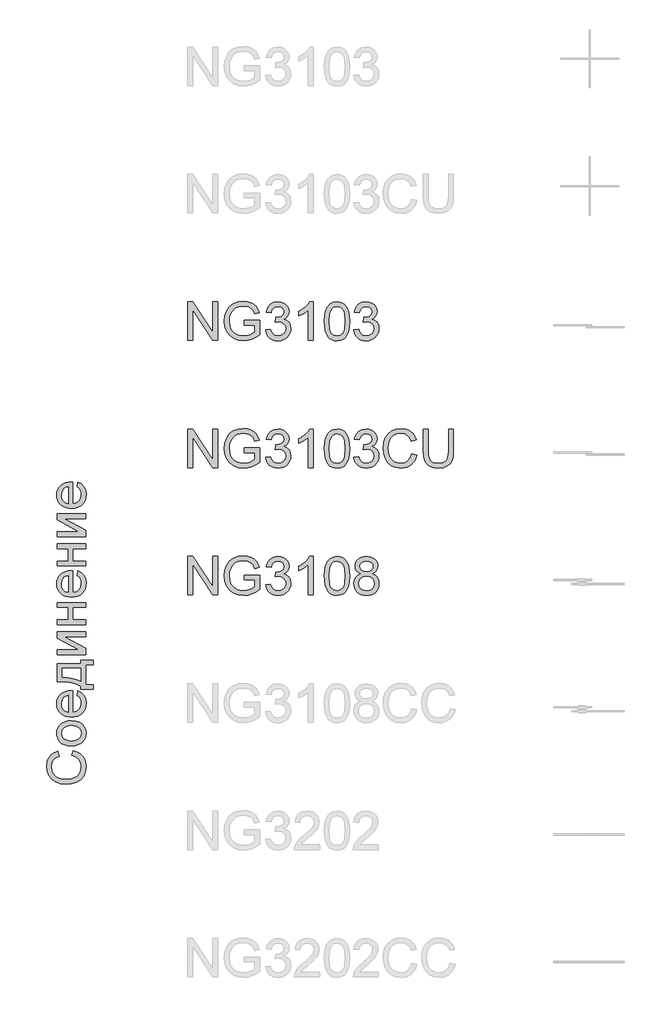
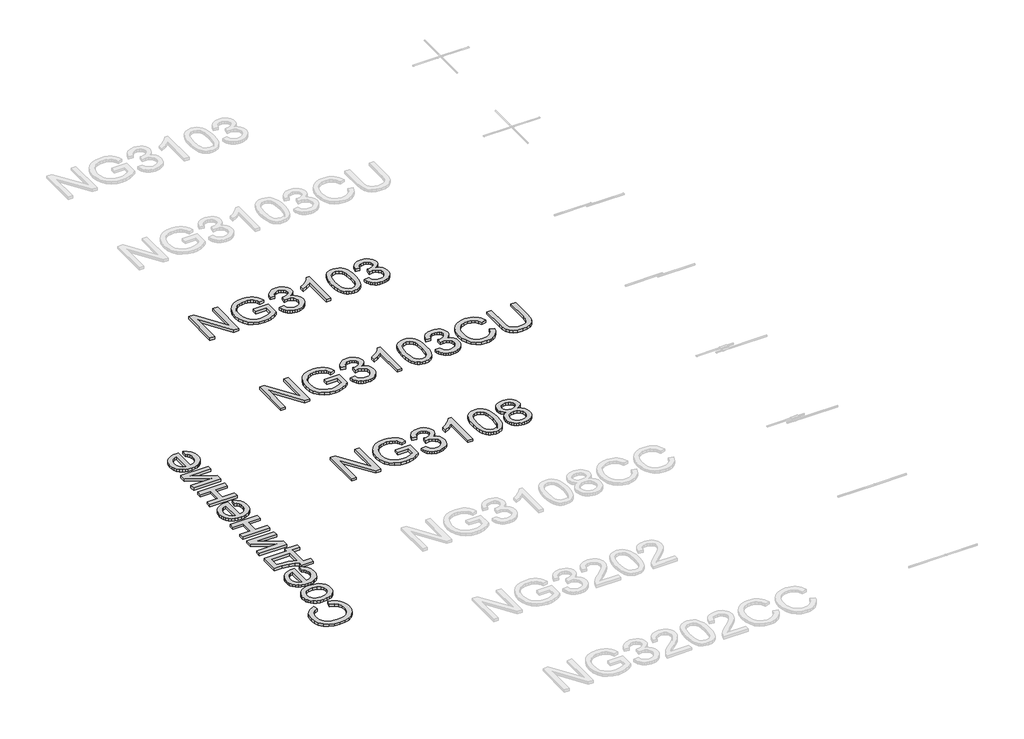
# One storey, part 111 of 124: 4 proxies.
"""IFC4 building model written with IfcOpenShell, lengths in millimetres."""

import ifcopenshell
import ifcopenshell.guid

model = None  # the IFC model being written
_history = None  # IfcOwnerHistory: only IFC2X3 demands one
_inside = {}  # id of a spatial element -> (the spatial element, [elements in it])
_under = {}  # id of a project, library or spatial element -> (it, [spatial elements below it])
_declared = {}  # id of a project -> (the project, [libraries it declares])
_typed = {}  # id of a type object -> (the type object, [elements of that type])
_made_of = {}  # id of a material, layer set ... -> (it, [elements and type objects made of it])


def new_model(schema):
    """Start an empty IFC model of exactly this schema.

    Asked for "IFC4X3", IfcOpenShell would pick the latest addendum, in which some entities
    have other attributes; the version numbers below select the first issue.
    IFC2X3 requires an IfcOwnerHistory on every rooted entity: one is made here for all.
    """
    global model, _history
    if schema == "IFC4X3":
        model = ifcopenshell.file(schema_version=(4, 3, 0, 0))
    else:
        model = ifcopenshell.file(schema=schema)
    _inside.clear()
    _under.clear()
    _declared.clear()
    _typed.clear()
    _made_of.clear()
    _history = None
    if model.schema == "IFC2X3":
        org = make("IfcOrganization", Name="unknown")
        user = make(
            "IfcPersonAndOrganization",
            ThePerson=make("IfcPerson", FamilyName="unknown"),
            TheOrganization=org,
        )
        app = make(
            "IfcApplication",
            ApplicationDeveloper=org,
            Version="unknown",
            ApplicationFullName="unknown",
            ApplicationIdentifier="unknown",
        )
        _history = make(
            "IfcOwnerHistory",
            OwningUser=user,
            OwningApplication=app,
            ChangeAction="ADDED",
            CreationDate=0,
        )
    return model


def make(cls, **values):
    """One entity of the class cls with the attributes given. An attribute that is None is left unset."""
    return model.create_entity(
        cls, **{name: value for name, value in values.items() if value is not None}
    )


def rooted(cls, **values):
    """An entity with a GlobalId (a new one), such as an element, a storey or a relation."""
    return make(cls, GlobalId=ifcopenshell.guid.new(), OwnerHistory=_history, **values)


def si_unit(unit_type, name, prefix=None):
    """IfcSIUnit, for example si_unit("LENGTHUNIT", "METRE", prefix="MILLI")."""
    return make("IfcSIUnit", UnitType=unit_type, Prefix=prefix, Name=name)


def assignment(units):
    """IfcUnitAssignment: the units of a project."""
    return None if units is None else make("IfcUnitAssignment", Units=units)


def point(xyz):
    """IfcCartesianPoint."""
    return None if xyz is None else make("IfcCartesianPoint", Coordinates=xyz)


def direction(xyz):
    """IfcDirection."""
    return None if xyz is None else make("IfcDirection", DirectionRatios=xyz)


def frame(location, z_axis=None, x_axis=None):
    """IfcAxis2Placement3D, a coordinate frame: its origin and axes. An axis left out is left unset."""
    return make(
        "IfcAxis2Placement3D",
        Location=point(location),
        Axis=direction(z_axis),
        RefDirection=direction(x_axis),
    )


def origin():
    """The frame at (0, 0, 0) with its axes left unset."""
    return frame((0.0, 0.0, 0.0))


def origin_with_axes():
    """The frame at (0, 0, 0) with the z axis (0, 0, 1) and the x axis (1, 0, 0) written out."""
    return frame((0.0, 0.0, 0.0), z_axis=(0.0, 0.0, 1.0), x_axis=(1.0, 0.0, 0.0))


def place(relative_to, where):
    """IfcLocalPlacement: puts the frame where relative to a parent placement (None: the world)."""
    return make(
        "IfcLocalPlacement", PlacementRelTo=relative_to, RelativePlacement=where
    )


def context(
    kind, dimensions, precision=None, world=None, true_north=None, identifier=None
):
    """IfcGeometricRepresentationContext, for example the 3D "Model" context."""
    return make(
        "IfcGeometricRepresentationContext",
        ContextIdentifier=identifier,
        ContextType=kind,
        CoordinateSpaceDimension=dimensions,
        Precision=precision,
        WorldCoordinateSystem=world,
        TrueNorth=true_north,
    )


def project(units=None, contexts=None):
    """IfcProject with its units and contexts."""
    return rooted(
        "IfcProject",
        Name="project",
        RepresentationContexts=contexts,
        UnitsInContext=assignment(units),
    )


def spatial(cls, under=None, at=None, **own):
    """A site, building, storey or space (cls), placed at a placement, below another one or the project."""
    s = rooted(cls, ObjectPlacement=at, **own)
    if under is not None:
        _under.setdefault(under.id(), (under, []))[1].append(s)
    return s


def polyline(points):
    """IfcPolyline through the points."""
    return make("IfcPolyline", Points=[point(p) for p in points])


def outline(outer, holes=None, kind="AREA"):
    """IfcArbitraryClosedProfileDef: a profile drawn as a closed curve; with holes, ...WithVoids."""
    if holes is None:
        return make("IfcArbitraryClosedProfileDef", ProfileType=kind, OuterCurve=outer)
    return make(
        "IfcArbitraryProfileDefWithVoids",
        ProfileType=kind,
        OuterCurve=outer,
        InnerCurves=holes,
    )


def extrude(swept, where, along, depth):
    """IfcExtrudedAreaSolid: the profile swept, set in the frame where, extruded along a direction by depth."""
    return make(
        "IfcExtrudedAreaSolid",
        SweptArea=swept,
        Position=where,
        ExtrudedDirection=direction(along),
        Depth=depth,
    )


def shape(context_of_items, identifier, shape_type, items):
    """IfcShapeRepresentation: the items that make up one representation, for example the "Body"."""
    return make(
        "IfcShapeRepresentation",
        ContextOfItems=context_of_items,
        RepresentationIdentifier=identifier,
        RepresentationType=shape_type,
        Items=items,
    )


def made_of(thing, what):
    """Note that an element or type object is made of a material, layer set ...; save() writes the relation."""
    if what is not None:
        _made_of.setdefault(what.id(), (what, []))[1].append(thing)
    return thing


def element(
    cls,
    number,
    at=None,
    inside=None,
    cuts=None,
    type_object=None,
    material=None,
    context=None,
    identifier="Body",
    shape_type=None,
    held_by="IfcProductDefinitionShape",
    body=None,
    shapes=None,
    **own,
):
    """One element of the class cls, such as IfcWall. Its Tag is "e" and its number.

    at: its placement. inside: the storey or other place that contains it. cuts: it is an
    opening in that element (IfcRelVoidsElement). A single representation is given by context,
    identifier, shape_type and body (its items); several are given by shapes. held_by: the class
    of the entity that holds the representations. save() writes the other relations.
    """
    e = rooted(cls, Tag="e%d" % number, ObjectPlacement=at, **own)
    if body is not None:
        shapes = [shape(context, identifier, shape_type, body)]
    if shapes is not None:
        e.Representation = make(held_by, Representations=shapes)
    if inside is not None:
        _inside.setdefault(inside.id(), (inside, []))[1].append(e)
    if cuts is not None:
        rooted(
            "IfcRelVoidsElement", RelatingBuildingElement=cuts, RelatedOpeningElement=e
        )
    if type_object is not None:
        _typed.setdefault(type_object.id(), (type_object, []))[1].append(e)
    return made_of(e, material)


def aggregate(whole, parts):
    """IfcRelAggregates: a whole, such as a stair, and the parts it consists of."""
    return rooted("IfcRelAggregates", RelatingObject=whole, RelatedObjects=parts)


def save(model, path):
    """Write the relations noted so far, then the file.

    IfcRelAggregates (storeys below a building ...), IfcRelContainedInSpatialStructure (elements
    in a storey), IfcRelDefinesByType, IfcRelAssociatesMaterial and IfcRelDeclares: one each for
    every whole, place, type object, material and project.
    """
    for whole, parts in _under.values():
        aggregate(whole, parts)
    for where, things in _inside.values():
        rooted(
            "IfcRelContainedInSpatialStructure",
            RelatedElements=things,
            RelatingStructure=where,
        )
    for kind, things in _typed.values():
        rooted("IfcRelDefinesByType", RelatedObjects=things, RelatingType=kind)
    for what, things in _made_of.values():
        rooted("IfcRelAssociatesMaterial", RelatedObjects=things, RelatingMaterial=what)
    for by, libraries in _declared.values():
        rooted("IfcRelDeclares", RelatingContext=by, RelatedDefinitions=libraries)
    model.write(path)


model = new_model("IFC4")

# Units and contexts
model_context = context("Model", 3, world=origin())
ifc_project = project(units=[si_unit("LENGTHUNIT", "METRE", prefix="MILLI")], contexts=[model_context])

# Site, building, storey
site = spatial("IfcSite", under=ifc_project)
building = spatial("IfcBuilding", under=site)
storey = spatial("IfcBuildingStorey", under=building, Name="Этаж 01", Elevation=0.0)

# Proxies
placement = place(None, origin())
element("IfcBuildingElementProxy", 1, Name="300", ObjectType="300", at=placement, inside=storey, context=model_context, shape_type="SweptSolid", body=[
    extrude(outline(polyline([(49699.8220677, -17519.5141033), (49699.8220677, -17218.1451728), (49740.1419344, -17218.1451728), (49897.5954283, -17456.9005877), (49897.5954283, -17218.1451728), (49935.2665446, -17218.1451728), (49935.2665446, -17519.5141033), (49894.9466779, -17519.5141033), (49737.493184, -17280.685112), (49737.493184, -17519.5141033), (49699.8220677, -17519.5141033)])), origin_with_axes(), (0.0, 0.0, 1.0), 20.0),
    extrude(outline(polyline([(50142.4576843, -17401.7918648), (50142.4576843, -17364.1207485), (50264.8888123, -17364.1207485), (50264.8888123, -17476.7662154), (50235.1363559, -17497.4595776), (50204.4458005, -17512.3036162), (50172.8907223, -17521.2431486), (50140.5446979, -17524.2229928), (50098.2842537, -17519.4865121), (50060.0889056, -17505.27707), (50028.3590835, -17482.0913073), (50005.4952175, -17450.4258646), (49991.6720515, -17412.4420486), (49987.0643295, -17370.301166), (49991.6536574, -17327.8567808), (50005.4216411, -17288.3738457), (50027.7980634, -17255.2552691), (50058.2127074, -17231.9039594), (50095.2584243, -17218.0532023), (50137.5280656, -17213.4362833), (50168.5589118, -17216.1126248), (50196.4627612, -17224.1416493), (50219.9612236, -17236.9439428), (50237.7759092, -17253.9400909), (50250.9552817, -17275.9486313), (50260.5478047, -17303.7881013), (50225.8197444, -17313.5737624), (50218.0666313, -17293.7173317), (50208.6396552, -17278.7353374), (50196.1684556, -17267.4413602), (50179.282672, -17258.6489805), (50159.1503298, -17252.9927948), (50136.9394544, -17251.1073996), (50110.9393944, -17253.1399476), (50088.7101248, -17259.2375917), (50070.3344191, -17268.6369766), (50055.8950508, -17280.5747474), (50036.5076697, -17309.6006368), (50027.6785018, -17338.037915), (50024.7354458, -17368.7560616), (50028.27631, -17404.780906), (50038.8989026, -17434.4229978), (50056.2813269, -17457.4708048), (50080.1016861, -17473.7127949), (50107.9779443, -17483.3421061), (50137.5280656, -17486.5518765), (50163.6200961, -17484.1330524), (50189.0683331, -17476.87658), (50211.1688439, -17466.8793868), (50227.217696, -17456.2384001), (50227.217696, -17401.7918648), (50142.4576843, -17401.7918648)])), origin_with_axes(), (0.0, 0.0, 1.0), 20.0),
    extrude(outline(polyline([(50311.9777077, -17439.4629811), (50349.648824, -17434.7540916), (50358.0825187, -17458.427298), (50370.4341567, -17474.4117707), (50387.3107432, -17483.51685), (50409.3192836, -17486.5518765), (50435.1445997, -17482.3764158), (50455.0838038, -17469.8500339), (50467.8309149, -17451.1616286), (50472.079952, -17428.5000977), (50467.8677031, -17406.988198), (50455.2309566, -17389.5413944), (50436.1010928, -17377.9807027), (50412.4094924, -17374.1271388), (50385.9955651, -17378.2474171), (50390.1894198, -17340.5763008), (50396.2226846, -17341.0177592), (50418.792245, -17338.3138265), (50438.9705724, -17330.2020285), (50453.2076056, -17316.4800301), (50457.9532834, -17296.9454962), (50454.5135867, -17280.6759149), (50444.1944967, -17267.4781484), (50428.4491473, -17258.7317539), (50408.7306724, -17255.8162891), (50388.9754093, -17258.7593451), (50372.8253897, -17267.588513), (50361.0347717, -17282.3037928), (50354.3577135, -17302.9051845), (50316.6865972, -17298.196295), (50327.7782394, -17264.3695455), (50347.5151084, -17239.1144465), (50374.5176468, -17223.3874912), (50407.4062972, -17218.1451728), (50431.0887007, -17220.7295438), (50452.8397236, -17228.4826569), (50471.1786411, -17240.7147332), (50484.624728, -17256.7359941), (50492.8744817, -17275.1944732), (50495.6243997, -17294.7382042), (50493.0124375, -17312.948363), (50485.176551, -17329.4662646), (50472.2271048, -17343.5377509), (50454.2744634, -17354.4086638), (50477.8556993, -17363.9368075), (50495.3300941, -17380.1604035), (50506.1458247, -17402.196535), (50509.7510683, -17429.1622852), (50507.9484465, -17448.2737549), (50502.5405812, -17465.8769084), (50493.5274723, -17481.9717457), (50480.9091199, -17496.5582668), (50465.536251, -17508.6615844), (50448.2595928, -17517.3068113), (50429.0791453, -17522.4939474), (50407.9949084, -17524.2229928), (50388.9386211, -17522.7468663), (50371.5745909, -17518.3184868), (50355.9028179, -17510.9378542), (50341.9233021, -17500.6049687), (50330.201662, -17487.9268354), (50321.3035162, -17473.5104598), (50315.2288648, -17457.3558417), (50311.9777077, -17439.4629811)])), origin_with_axes(), (0.0, 0.0, 1.0), 20.0),
    extrude(outline(polyline([(50683.9799812, -17519.5141033), (50646.3088649, -17519.5141033), (50646.3088649, -17284.6582375), (50610.6243114, -17310.0788834), (50570.9666323, -17329.0983826), (50570.9666323, -17293.4874054), (50600.5535417, -17277.3925681), (50626.1857197, -17258.2443103), (50646.3916383, -17237.8820419), (50659.6997695, -17218.1451728), (50683.9799812, -17218.1451728), (50683.9799812, -17519.5141033)])), origin_with_axes(), (0.0, 0.0, 1.0), 20.0),
    extrude(outline(polyline([(50773.4488824, -17371.2576592), (50776.2171944, -17323.0191326), (50784.5221305, -17284.5478729), (50798.2809171, -17255.2552691), (50817.4107808, -17234.5527098), (50842.0496775, -17222.2470571), (50872.3355627, -17218.1451728), (50895.5489166, -17220.573194), (50916.3342493, -17227.8572575), (50933.7166736, -17239.7122548), (50946.7213021, -17255.8530773), (50956.5437514, -17276.1417694), (50964.3796379, -17300.4403751), (50969.5115917, -17331.2964775), (50971.222243, -17371.2576592), (50968.4815222, -17419.2202743), (50960.2593596, -17457.5995635), (50946.5833464, -17486.9197585), (50927.4810738, -17507.7050912), (50902.7869949, -17520.0935174), (50872.3355627, -17524.2229928), (50851.5870182, -17522.4295681), (50833.1929184, -17517.0492939), (50817.1532634, -17508.0821703), (50803.4680532, -17495.5281972), (50790.334666, -17472.8344766), (50780.9536751, -17444.5581467), (50775.3250806, -17410.6992076), (50773.4488824, -17371.2576592)]), holes=[polyline([(50811.1199987, -17371.1840828), (50815.5345827, -17430.4406752), (50821.0528126, -17450.7086739), (50828.7783345, -17464.7364742), (50848.4968094, -17481.0980259), (50872.3355627, -17486.5518765), (50896.174316, -17481.0796318), (50915.892791, -17464.6628978), (50923.6183128, -17450.6121048), (50929.1365428, -17430.3487047), (50933.5511267, -17371.1840828), (50929.2836956, -17313.2610627), (50923.9494066, -17293.0597426), (50916.4814021, -17278.6985492), (50896.7997154, -17261.5368541), (50871.8941043, -17255.8162891), (50848.3128684, -17260.8562725), (50829.3669457, -17275.9762225), (50821.3839064, -17291.6112072), (50815.6817355, -17312.6908456), (50811.1199987, -17371.1840828)])]), origin_with_axes(), (0.0, 0.0, 1.0), 20.0),
    extrude(outline(polyline([(51004.1844698, -17439.4629811), (51041.8555861, -17434.7540916), (51050.2892808, -17458.427298), (51062.6409188, -17474.4117707), (51079.5175054, -17483.51685), (51101.5260457, -17486.5518765), (51127.3513618, -17482.3764158), (51147.2905659, -17469.8500339), (51160.037677, -17451.1616286), (51164.2867141, -17428.5000977), (51160.0744652, -17406.988198), (51147.4377187, -17389.5413944), (51128.307855, -17377.9807027), (51104.6162545, -17374.1271388), (51078.2023272, -17378.2474171), (51082.396182, -17340.5763008), (51088.4294467, -17341.0177592), (51110.9990071, -17338.3138265), (51131.1773345, -17330.2020285), (51145.4143677, -17316.4800301), (51150.1600455, -17296.9454962), (51146.7203488, -17280.6759149), (51136.4012589, -17267.4781484), (51120.6559095, -17258.7317539), (51100.9374345, -17255.8162891), (51081.1821714, -17258.7593451), (51065.0321518, -17267.588513), (51053.2415338, -17282.3037928), (51046.5644756, -17302.9051845), (51008.8933593, -17298.196295), (51019.9850015, -17264.3695455), (51039.7218705, -17239.1144465), (51066.724409, -17223.3874912), (51099.6130593, -17218.1451728), (51123.2954628, -17220.7295438), (51145.0464857, -17228.4826569), (51163.3854032, -17240.7147332), (51176.8314901, -17256.7359941), (51185.0812439, -17275.1944732), (51187.8311618, -17294.7382042), (51185.2191996, -17312.948363), (51177.3833131, -17329.4662646), (51164.4338669, -17343.5377509), (51146.4812255, -17354.4086638), (51170.0624614, -17363.9368075), (51187.5368562, -17380.1604035), (51198.3525868, -17402.196535), (51201.9578304, -17429.1622852), (51200.1552086, -17448.2737549), (51194.7473433, -17465.8769084), (51185.7342344, -17481.9717457), (51173.115882, -17496.5582668), (51157.7430131, -17508.6615844), (51140.4663549, -17517.3068113), (51121.2859074, -17522.4939474), (51100.2016705, -17524.2229928), (51081.1453832, -17522.7468663), (51063.781353, -17518.3184868), (51048.10958, -17510.9378542), (51034.1300642, -17500.6049687), (51022.4084241, -17487.9268354), (51013.5102784, -17473.5104598), (51007.4356269, -17457.3558417), (51004.1844698, -17439.4629811)])), origin_with_axes(), (0.0, 0.0, 1.0), 20.0),
])
element("IfcBuildingElementProxy", 2, Name="300", ObjectType="300", at=placement, inside=storey, context=model_context, shape_type="SweptSolid", body=[
    extrude(outline(polyline([(48790.0490062, -20780.5753385), (48799.7610909, -20742.9042221), (48823.1882762, -20750.3584311), (48843.65861, -20760.2866464), (48861.1720922, -20772.6888682), (48875.7287229, -20787.5650964), (48887.1721522, -20804.5796386), (48895.3460303, -20823.3968027), (48900.2503572, -20844.0165885), (48901.8851328, -20866.4389961), (48896.9371199, -20910.1341801), (48882.0930814, -20944.8346493), (48857.8680521, -20971.4325176), (48824.7770666, -20990.8198987), (48785.8735456, -21002.6565019), (48744.2109096, -21006.6020363), (48700.2674053, -21002.1414671), (48662.3203775, -20988.7597595), (48631.5746398, -20967.1558894), (48609.2350056, -20938.0288324), (48595.6325688, -20903.484713), (48591.0984232, -20865.6296557), (48596.9661411, -20824.3257047), (48604.3007883, -20806.3569685), (48614.5692945, -20790.1770585), (48627.5003467, -20776.0526892), (48642.8226318, -20764.2505749), (48680.6409009, -20747.6131117), (48689.6172216, -20785.284228), (48662.1456336, -20798.3440388), (48643.3008784, -20816.1863156), (48632.4023743, -20839.0317875), (48628.7695396, -20867.1011837), (48632.7978474, -20899.4564052), (48644.8827709, -20926.0358793), (48663.7551173, -20946.2050097), (48688.1456936, -20959.3291999), (48715.7184491, -20966.53049), (48744.1373332, -20968.93092), (48778.93897, -20966.0890316), (48809.0317172, -20957.5633663), (48833.2659436, -20943.0320275), (48850.492018, -20922.1731184), (48860.7835169, -20897.1663398), (48864.2140165, -20870.1913925), (48859.5419151, -20838.7466789), (48845.5256111, -20812.5442838), (48822.3122572, -20792.7614295), (48790.0490062, -20780.5753385)])), origin_with_axes(), (0.0, 0.0, 1.0), 20.0),
    extrude(outline(polyline([(48786.5173391, -20705.2331058), (48757.8547331, -20703.1959593), (48733.1560557, -20697.0845196), (48712.4213067, -20686.8987869), (48695.6504863, -20672.6387611), (48684.9313246, -20658.2821662), (48677.2747806, -20642.4356493), (48672.6808542, -20625.0992102), (48671.1495454, -20606.2728491), (48673.0142473, -20585.4898157), (48678.6083529, -20566.6979435), (48687.9318622, -20549.8972326), (48700.9847752, -20535.0876831), (48717.3256336, -20523.0004603), (48736.5129789, -20514.3667297), (48758.5468111, -20509.1864914), (48783.4271303, -20507.4597452), (48821.4845227, -20510.5131658), (48850.4552298, -20519.6734275), (48872.1510705, -20534.6738158), (48888.3838636, -20555.2476164), (48898.5098155, -20579.6841779), (48901.8851328, -20606.2728491), (48900.0273287, -20627.3593853), (48894.4539165, -20646.3260014), (48885.1648961, -20663.1726975), (48872.1602676, -20677.8994736), (48855.6607601, -20689.8579377), (48835.8871028, -20698.3996978), (48812.8392958, -20703.5247538), (48786.5173391, -20705.2331058)]), holes=[polyline([(48786.4437627, -20667.5619895), (48820.5372266, -20663.2025879), (48844.8266353, -20650.124383), (48859.3671712, -20630.4426962), (48864.2140165, -20606.2728491), (48859.33958, -20582.2133667), (48844.7162707, -20562.5684681), (48820.1049652, -20549.4902632), (48785.2665403, -20545.1308615), (48752.1663578, -20549.5178543), (48728.2080429, -20562.6788327), (48713.667507, -20582.3513224), (48708.8206617, -20606.2728491), (48713.6491129, -20630.4426962), (48728.1344665, -20650.124383), (48752.3686929, -20663.2025879), (48786.4437627, -20667.5619895)])]), origin_with_axes(), (0.0, 0.0, 1.0), 20.0),
    extrude(outline(polyline([(48831.2517897, -20310.127843), (48835.9606792, -20273.1924907), (48863.7909522, -20286.5006219), (48884.594679, -20307.7366101), (48897.5625193, -20336.4222086), (48901.8851328, -20372.079171), (48900.0204309, -20395.4534733), (48894.4263253, -20416.2801927), (48885.102816, -20434.5593294), (48872.049903, -20450.2908832), (48855.6308697, -20462.9414253), (48836.2089996, -20471.9775268), (48813.7842927, -20477.3991877), (48788.3567491, -20479.206408), (48762.066982, -20477.3807936), (48738.8950148, -20471.9039504), (48718.8408475, -20462.7758784), (48701.9044802, -20449.9965776), (48688.4491962, -20434.3064105), (48678.8382791, -20416.4457396), (48673.0717288, -20396.414565), (48671.1495454, -20374.2128866), (48673.0671303, -20352.7262788), (48678.819885, -20333.2952117), (48688.4078095, -20315.9196852), (48701.8309038, -20300.5996993), (48718.7304829, -20288.0940108), (48738.747862, -20279.1613761), (48761.883041, -20273.8017953), (48788.1360199, -20272.0152683), (48798.2895629, -20272.2359975), (48798.2895629, -20441.5352917), (48826.4877179, -20435.0145833), (48847.2178683, -20419.8670422), (48859.9649794, -20398.0056546), (48864.2140165, -20371.343407), (48862.2458478, -20351.2938383), (48856.3413418, -20334.4080547), (48846.1326164, -20320.6860563), (48831.2517897, -20310.127843)]), holes=[polyline([(48760.6184466, -20441.5352917), (48760.6184466, -20309.6863846), (48740.7160307, -20314.7815503), (48726.4789975, -20324.7695464), (48713.2352456, -20346.7321015), (48708.8206617, -20374.3600394), (48712.3431318, -20399.7530941), (48722.9105421, -20420.749959), (48739.3824585, -20435.3456771), (48760.6184466, -20441.5352917)])]), origin_with_axes(), (0.0, 0.0, 1.0), 20.0),
    extrude(outline(polyline([(48675.8584349, -20201.3819252), (48675.8584349, -20060.1152391), (48859.5051269, -20060.1152391), (48859.5051269, -20031.8619019), (48958.3918072, -20031.8619019), (48958.3918072, -20069.5330182), (48897.1762432, -20069.5330182), (48897.1762432, -20224.9263729), (48958.3918072, -20224.9263729), (48958.3918072, -20262.5974892), (48859.5051269, -20262.5974892), (48859.5051269, -20239.0530416), (48828.5754482, -20221.9373317), (48787.6577733, -20209.9535757), (48736.7521022, -20203.1017736), (48675.8584349, -20201.3819252)]), holes=[polyline([(48713.5295512, -20168.4196985), (48759.6527564, -20171.5099072), (48799.3564207, -20177.2488664), (48832.6405442, -20185.6365759), (48859.5051269, -20196.6730357), (48859.5051269, -20097.7863554), (48713.5295512, -20097.7863554), (48713.5295512, -20168.4196985)])]), origin_with_axes(), (0.0, 0.0, 1.0), 20.0),
    extrude(outline(polyline([(48675.8584349, -19989.481896), (48675.8584349, -19951.8107797), (48844.6426943, -19951.8107797), (48675.8584349, -19859.2516697), (48675.8584349, -19810.5440936), (48897.1762432, -19810.5440936), (48897.1762432, -19848.2152099), (48729.4220534, -19848.2152099), (48897.1762432, -19940.1857087), (48897.1762432, -19989.481896), (48675.8584349, -19989.481896)])), origin_with_axes(), (0.0, 0.0, 1.0), 20.0),
    extrude(outline(polyline([(48675.8584349, -19754.0374191), (48675.8584349, -19716.3663028), (48760.6184466, -19716.3663028), (48760.6184466, -19617.4796225), (48675.8584349, -19617.4796225), (48675.8584349, -19579.8085062), (48897.1762432, -19579.8085062), (48897.1762432, -19617.4796225), (48798.2895629, -19617.4796225), (48798.2895629, -19716.3663028), (48897.1762432, -19716.3663028), (48897.1762432, -19754.0374191), (48675.8584349, -19754.0374191)])), origin_with_axes(), (0.0, 0.0, 1.0), 20.0),
    extrude(outline(polyline([(48831.2517897, -19368.3499354), (48835.9606792, -19331.4145831), (48863.7909522, -19344.7227142), (48884.594679, -19365.9587024), (48897.5625193, -19394.644301), (48901.8851328, -19430.3012634), (48900.0204309, -19453.6755656), (48894.4263253, -19474.5022851), (48885.102816, -19492.7814217), (48872.049903, -19508.5129755), (48855.6308697, -19521.1635176), (48836.2089996, -19530.1996191), (48813.7842927, -19535.6212801), (48788.3567491, -19537.4285004), (48762.066982, -19535.602886), (48738.8950148, -19530.1260427), (48718.8408475, -19520.9979707), (48701.9044802, -19508.2186699), (48688.4491962, -19492.5285028), (48678.8382791, -19474.667832), (48673.0717288, -19454.6366573), (48671.1495454, -19432.4349789), (48673.0671303, -19410.9483711), (48678.819885, -19391.517304), (48688.4078095, -19374.1417775), (48701.8309038, -19358.8217917), (48718.7304829, -19346.3161031), (48738.747862, -19337.3834684), (48761.883041, -19332.0238876), (48788.1360199, -19330.2373607), (48798.2895629, -19330.4580899), (48798.2895629, -19499.757384), (48826.4877179, -19493.2366757), (48847.2178683, -19478.0891345), (48859.9649794, -19456.227747), (48864.2140165, -19429.5654994), (48862.2458478, -19409.5159306), (48856.3413418, -19392.6301471), (48846.1326164, -19378.9081486), (48831.2517897, -19368.3499354)]), holes=[polyline([(48760.6184466, -19499.757384), (48760.6184466, -19367.908477), (48740.7160307, -19373.0036426), (48726.4789975, -19382.9916388), (48713.2352456, -19404.9541939), (48708.8206617, -19432.5821317), (48712.3431318, -19457.9751864), (48722.9105421, -19478.9720513), (48739.3824585, -19493.5677695), (48760.6184466, -19499.757384)])]), origin_with_axes(), (0.0, 0.0, 1.0), 20.0),
    extrude(outline(polyline([(48675.8584349, -19292.5662444), (48675.8584349, -19254.8951281), (48760.6184466, -19254.8951281), (48760.6184466, -19156.0084478), (48675.8584349, -19156.0084478), (48675.8584349, -19118.3373314), (48897.1762432, -19118.3373314), (48897.1762432, -19156.0084478), (48798.2895629, -19156.0084478), (48798.2895629, -19254.8951281), (48897.1762432, -19254.8951281), (48897.1762432, -19292.5662444), (48675.8584349, -19292.5662444)])), origin_with_axes(), (0.0, 0.0, 1.0), 20.0),
    extrude(outline(polyline([(48675.8584349, -19061.830657), (48675.8584349, -19024.1595407), (48844.6426943, -19024.1595407), (48675.8584349, -18931.6004307), (48675.8584349, -18882.8928545), (48897.1762432, -18882.8928545), (48897.1762432, -18920.5639708), (48729.4220534, -18920.5639708), (48897.1762432, -19012.5344696), (48897.1762432, -19061.830657), (48675.8584349, -19061.830657)])), origin_with_axes(), (0.0, 0.0, 1.0), 20.0),
    extrude(outline(polyline([(48831.2517897, -18671.4342837), (48835.9606792, -18634.4989314), (48863.7909522, -18647.8070626), (48884.594679, -18669.0430507), (48897.5625193, -18697.7286493), (48901.8851328, -18733.3856117), (48900.0204309, -18756.759914), (48894.4263253, -18777.5866334), (48885.102816, -18795.8657701), (48872.049903, -18811.5973239), (48855.6308697, -18824.247866), (48836.2089996, -18833.2839675), (48813.7842927, -18838.7056284), (48788.3567491, -18840.5128487), (48762.066982, -18838.6872343), (48738.8950148, -18833.2103911), (48718.8408475, -18824.0823191), (48701.9044802, -18811.3030183), (48688.4491962, -18795.6128512), (48678.8382791, -18777.7521803), (48673.0717288, -18757.7210057), (48671.1495454, -18735.5193273), (48673.0671303, -18714.0327195), (48678.819885, -18694.6016524), (48688.4078095, -18677.2261259), (48701.8309038, -18661.90614), (48718.7304829, -18649.4004515), (48738.747862, -18640.4678168), (48761.883041, -18635.1082359), (48788.1360199, -18633.321709), (48798.2895629, -18633.5424382), (48798.2895629, -18802.8417324), (48826.4877179, -18796.321024), (48847.2178683, -18781.1734829), (48859.9649794, -18759.3120953), (48864.2140165, -18732.6498477), (48862.2458478, -18712.600279), (48856.3413418, -18695.7144954), (48846.1326164, -18681.992497), (48831.2517897, -18671.4342837)]), holes=[polyline([(48760.6184466, -18802.8417324), (48760.6184466, -18670.9928253), (48740.7160307, -18676.0879909), (48726.4789975, -18686.0759871), (48713.2352456, -18708.0385422), (48708.8206617, -18735.6664801), (48712.3431318, -18761.0595348), (48722.9105421, -18782.0563997), (48739.3824585, -18796.6521178), (48760.6184466, -18802.8417324)])]), origin_with_axes(), (0.0, 0.0, 1.0), 20.0),
])
element("IfcBuildingElementProxy", 3, Name="300", ObjectType="300", at=placement, inside=storey, context=model_context, shape_type="SweptSolid", body=[
    extrude(outline(polyline([(49699.8220677, -18519.5141033), (49699.8220677, -18218.1451728), (49740.1419344, -18218.1451728), (49897.5954283, -18456.9005877), (49897.5954283, -18218.1451728), (49935.2665446, -18218.1451728), (49935.2665446, -18519.5141033), (49894.9466779, -18519.5141033), (49737.493184, -18280.685112), (49737.493184, -18519.5141033), (49699.8220677, -18519.5141033)])), origin_with_axes(), (0.0, 0.0, 1.0), 20.0),
    extrude(outline(polyline([(50142.4576843, -18401.7918648), (50142.4576843, -18364.1207485), (50264.8888123, -18364.1207485), (50264.8888123, -18476.7662154), (50235.1363559, -18497.4595776), (50204.4458005, -18512.3036162), (50172.8907223, -18521.2431486), (50140.5446979, -18524.2229928), (50098.2842537, -18519.4865121), (50060.0889056, -18505.27707), (50028.3590835, -18482.0913073), (50005.4952175, -18450.4258646), (49991.6720515, -18412.4420486), (49987.0643295, -18370.301166), (49991.6536574, -18327.8567808), (50005.4216411, -18288.3738457), (50027.7980634, -18255.2552691), (50058.2127074, -18231.9039594), (50095.2584243, -18218.0532023), (50137.5280656, -18213.4362833), (50168.5589118, -18216.1126248), (50196.4627612, -18224.1416493), (50219.9612236, -18236.9439428), (50237.7759092, -18253.9400909), (50250.9552817, -18275.9486313), (50260.5478047, -18303.7881013), (50225.8197444, -18313.5737624), (50218.0666313, -18293.7173317), (50208.6396552, -18278.7353374), (50196.1684556, -18267.4413602), (50179.282672, -18258.6489805), (50159.1503298, -18252.9927948), (50136.9394544, -18251.1073996), (50110.9393944, -18253.1399476), (50088.7101248, -18259.2375917), (50070.3344191, -18268.6369766), (50055.8950508, -18280.5747474), (50036.5076697, -18309.6006368), (50027.6785018, -18338.037915), (50024.7354458, -18368.7560616), (50028.27631, -18404.780906), (50038.8989026, -18434.4229978), (50056.2813269, -18457.4708048), (50080.1016861, -18473.7127949), (50107.9779443, -18483.3421061), (50137.5280656, -18486.5518765), (50163.6200961, -18484.1330524), (50189.0683331, -18476.87658), (50211.1688439, -18466.8793868), (50227.217696, -18456.2384001), (50227.217696, -18401.7918648), (50142.4576843, -18401.7918648)])), origin_with_axes(), (0.0, 0.0, 1.0), 20.0),
    extrude(outline(polyline([(50311.9777077, -18439.4629811), (50349.648824, -18434.7540916), (50358.0825187, -18458.427298), (50370.4341567, -18474.4117707), (50387.3107432, -18483.51685), (50409.3192836, -18486.5518765), (50435.1445997, -18482.3764158), (50455.0838038, -18469.8500339), (50467.8309149, -18451.1616286), (50472.079952, -18428.5000977), (50467.8677031, -18406.988198), (50455.2309566, -18389.5413944), (50436.1010928, -18377.9807027), (50412.4094924, -18374.1271388), (50385.9955651, -18378.2474171), (50390.1894198, -18340.5763008), (50396.2226846, -18341.0177592), (50418.792245, -18338.3138265), (50438.9705724, -18330.2020285), (50453.2076056, -18316.4800301), (50457.9532834, -18296.9454962), (50454.5135867, -18280.6759149), (50444.1944967, -18267.4781484), (50428.4491473, -18258.7317539), (50408.7306724, -18255.8162891), (50388.9754093, -18258.7593451), (50372.8253897, -18267.588513), (50361.0347717, -18282.3037928), (50354.3577135, -18302.9051845), (50316.6865972, -18298.196295), (50327.7782394, -18264.3695455), (50347.5151084, -18239.1144465), (50374.5176468, -18223.3874912), (50407.4062972, -18218.1451728), (50431.0887007, -18220.7295438), (50452.8397236, -18228.4826569), (50471.1786411, -18240.7147332), (50484.624728, -18256.7359941), (50492.8744817, -18275.1944732), (50495.6243997, -18294.7382042), (50493.0124375, -18312.948363), (50485.176551, -18329.4662646), (50472.2271048, -18343.5377509), (50454.2744634, -18354.4086638), (50477.8556993, -18363.9368075), (50495.3300941, -18380.1604035), (50506.1458247, -18402.196535), (50509.7510683, -18429.1622852), (50507.9484465, -18448.2737549), (50502.5405812, -18465.8769084), (50493.5274723, -18481.9717457), (50480.9091199, -18496.5582668), (50465.536251, -18508.6615844), (50448.2595928, -18517.3068113), (50429.0791453, -18522.4939474), (50407.9949084, -18524.2229928), (50388.9386211, -18522.7468663), (50371.5745909, -18518.3184868), (50355.9028179, -18510.9378542), (50341.9233021, -18500.6049687), (50330.201662, -18487.9268354), (50321.3035162, -18473.5104598), (50315.2288648, -18457.3558417), (50311.9777077, -18439.4629811)])), origin_with_axes(), (0.0, 0.0, 1.0), 20.0),
    extrude(outline(polyline([(50683.9799812, -18519.5141033), (50646.3088649, -18519.5141033), (50646.3088649, -18284.6582375), (50610.6243114, -18310.0788834), (50570.9666323, -18329.0983826), (50570.9666323, -18293.4874054), (50600.5535417, -18277.3925681), (50626.1857197, -18258.2443103), (50646.3916383, -18237.8820419), (50659.6997695, -18218.1451728), (50683.9799812, -18218.1451728), (50683.9799812, -18519.5141033)])), origin_with_axes(), (0.0, 0.0, 1.0), 20.0),
    extrude(outline(polyline([(50773.4488824, -18371.2576592), (50776.2171944, -18323.0191326), (50784.5221305, -18284.5478729), (50798.2809171, -18255.2552691), (50817.4107808, -18234.5527098), (50842.0496775, -18222.2470571), (50872.3355627, -18218.1451728), (50895.5489166, -18220.573194), (50916.3342493, -18227.8572575), (50933.7166736, -18239.7122548), (50946.7213021, -18255.8530773), (50956.5437514, -18276.1417694), (50964.3796379, -18300.4403751), (50969.5115917, -18331.2964775), (50971.222243, -18371.2576592), (50968.4815222, -18419.2202743), (50960.2593596, -18457.5995635), (50946.5833464, -18486.9197585), (50927.4810738, -18507.7050912), (50902.7869949, -18520.0935174), (50872.3355627, -18524.2229928), (50851.5870182, -18522.4295681), (50833.1929184, -18517.0492939), (50817.1532634, -18508.0821703), (50803.4680532, -18495.5281972), (50790.334666, -18472.8344766), (50780.9536751, -18444.5581467), (50775.3250806, -18410.6992076), (50773.4488824, -18371.2576592)]), holes=[polyline([(50811.1199987, -18371.1840828), (50815.5345827, -18430.4406752), (50821.0528126, -18450.7086739), (50828.7783345, -18464.7364742), (50848.4968094, -18481.0980259), (50872.3355627, -18486.5518765), (50896.174316, -18481.0796318), (50915.892791, -18464.6628978), (50923.6183128, -18450.6121048), (50929.1365428, -18430.3487047), (50933.5511267, -18371.1840828), (50929.2836956, -18313.2610627), (50923.9494066, -18293.0597426), (50916.4814021, -18278.6985492), (50896.7997154, -18261.5368541), (50871.8941043, -18255.8162891), (50848.3128684, -18260.8562725), (50829.3669457, -18275.9762225), (50821.3839064, -18291.6112072), (50815.6817355, -18312.6908456), (50811.1199987, -18371.1840828)])]), origin_with_axes(), (0.0, 0.0, 1.0), 20.0),
    extrude(outline(polyline([(51004.1844698, -18439.4629811), (51041.8555861, -18434.7540916), (51050.2892808, -18458.427298), (51062.6409188, -18474.4117707), (51079.5175054, -18483.51685), (51101.5260457, -18486.5518765), (51127.3513618, -18482.3764158), (51147.2905659, -18469.8500339), (51160.037677, -18451.1616286), (51164.2867141, -18428.5000977), (51160.0744652, -18406.988198), (51147.4377187, -18389.5413944), (51128.307855, -18377.9807027), (51104.6162545, -18374.1271388), (51078.2023272, -18378.2474171), (51082.396182, -18340.5763008), (51088.4294467, -18341.0177592), (51110.9990071, -18338.3138265), (51131.1773345, -18330.2020285), (51145.4143677, -18316.4800301), (51150.1600455, -18296.9454962), (51146.7203488, -18280.6759149), (51136.4012589, -18267.4781484), (51120.6559095, -18258.7317539), (51100.9374345, -18255.8162891), (51081.1821714, -18258.7593451), (51065.0321518, -18267.588513), (51053.2415338, -18282.3037928), (51046.5644756, -18302.9051845), (51008.8933593, -18298.196295), (51019.9850015, -18264.3695455), (51039.7218705, -18239.1144465), (51066.724409, -18223.3874912), (51099.6130593, -18218.1451728), (51123.2954628, -18220.7295438), (51145.0464857, -18228.4826569), (51163.3854032, -18240.7147332), (51176.8314901, -18256.7359941), (51185.0812439, -18275.1944732), (51187.8311618, -18294.7382042), (51185.2191996, -18312.948363), (51177.3833131, -18329.4662646), (51164.4338669, -18343.5377509), (51146.4812255, -18354.4086638), (51170.0624614, -18363.9368075), (51187.5368562, -18380.1604035), (51198.3525868, -18402.196535), (51201.9578304, -18429.1622852), (51200.1552086, -18448.2737549), (51194.7473433, -18465.8769084), (51185.7342344, -18481.9717457), (51173.115882, -18496.5582668), (51157.7430131, -18508.6615844), (51140.4663549, -18517.3068113), (51121.2859074, -18522.4939474), (51100.2016705, -18524.2229928), (51081.1453832, -18522.7468663), (51063.781353, -18518.3184868), (51048.10958, -18510.9378542), (51034.1300642, -18500.6049687), (51022.4084241, -18487.9268354), (51013.5102784, -18473.5104598), (51007.4356269, -18457.3558417), (51004.1844698, -18439.4629811)])), origin_with_axes(), (0.0, 0.0, 1.0), 20.0),
    extrude(outline(polyline([(51460.946755, -18412.3868663), (51498.6178713, -18422.0989509), (51491.1636624, -18445.5261362), (51481.235447, -18465.99647), (51468.8332253, -18483.5099522), (51453.9569971, -18498.0665829), (51436.9424548, -18509.5100123), (51418.1252908, -18517.6838903), (51397.5055049, -18522.5882172), (51375.0830973, -18524.2229928), (51331.3879134, -18519.27498), (51296.6874442, -18504.4309415), (51270.0895759, -18480.2059121), (51250.7021948, -18447.1149266), (51238.8655916, -18408.2114056), (51234.9200572, -18366.5487697), (51239.3806264, -18322.6052653), (51252.7623339, -18284.6582375), (51274.3662041, -18253.9124998), (51303.4932611, -18231.5728656), (51338.0373804, -18217.9704289), (51375.8924377, -18213.4362833), (51417.1963887, -18219.3040011), (51435.1651249, -18226.6386484), (51451.3450349, -18236.9071546), (51465.4694043, -18249.8382067), (51477.2715185, -18265.1604918), (51493.9089818, -18302.9787609), (51456.2378655, -18311.9550816), (51443.1780546, -18284.4834936), (51425.3357779, -18265.6387384), (51402.490306, -18254.7402343), (51374.4209097, -18251.1073996), (51342.0656883, -18255.1357074), (51315.4862141, -18267.220631), (51295.3170837, -18286.0929773), (51282.1928935, -18310.4835536), (51274.9916035, -18338.0563091), (51272.5911735, -18366.4751933), (51275.4330619, -18401.27683), (51283.9587271, -18431.3695772), (51298.4900659, -18455.6038036), (51319.3489751, -18472.8298781), (51344.3557537, -18483.1213769), (51371.330701, -18486.5518765), (51402.7754145, -18481.8797752), (51428.9778096, -18467.8634711), (51448.7606639, -18444.6501172), (51460.946755, -18412.3868663)])), origin_with_axes(), (0.0, 0.0, 1.0), 20.0),
    extrude(outline(polyline([(51748.1890168, -18218.1451728), (51785.8601331, -18218.1451728), (51785.8601331, -18392.0062037), (51783.3033533, -18432.7215435), (51775.6330137, -18464.0742866), (51761.30401, -18488.2625278), (51738.7712378, -18507.484362), (51707.9795148, -18520.0383351), (51668.8736587, -18524.2229928), (51630.6231282, -18520.580961), (51600.0429374, -18509.6548658), (51577.1238891, -18491.8217861), (51561.8567863, -18467.4588009), (51553.2759387, -18434.7816827), (51550.4156562, -18392.0062037), (51550.4156562, -18218.1451728), (51588.0867725, -18218.1451728), (51588.0867725, -18390.6818285), (51589.9445766, -18424.5361692), (51595.5179888, -18448.108208), (51605.6163496, -18464.4329715), (51621.0489993, -18476.5454862), (51641.1721444, -18484.0502789), (51665.3419915, -18486.5518765), (51703.6569013, -18481.6038637), (51717.9997006, -18475.4188476), (51729.1327295, -18466.7598252), (51737.4698552, -18454.5829311), (51743.424945, -18437.8443003), (51748.1890168, -18390.6818285), (51748.1890168, -18218.1451728)])), origin_with_axes(), (0.0, 0.0, 1.0), 20.0),
])
element("IfcBuildingElementProxy", 4, Name="300", ObjectType="300", at=placement, inside=storey, context=model_context, shape_type="SweptSolid", body=[
    extrude(outline(polyline([(49699.8220677, -19519.5141033), (49699.8220677, -19218.1451728), (49740.1419344, -19218.1451728), (49897.5954283, -19456.9005877), (49897.5954283, -19218.1451728), (49935.2665446, -19218.1451728), (49935.2665446, -19519.5141033), (49894.9466779, -19519.5141033), (49737.493184, -19280.685112), (49737.493184, -19519.5141033), (49699.8220677, -19519.5141033)])), origin_with_axes(), (0.0, 0.0, 1.0), 20.0),
    extrude(outline(polyline([(50142.4576843, -19401.7918648), (50142.4576843, -19364.1207485), (50264.8888123, -19364.1207485), (50264.8888123, -19476.7662154), (50235.1363559, -19497.4595776), (50204.4458005, -19512.3036162), (50172.8907223, -19521.2431486), (50140.5446979, -19524.2229928), (50098.2842537, -19519.4865121), (50060.0889056, -19505.27707), (50028.3590835, -19482.0913073), (50005.4952175, -19450.4258646), (49991.6720515, -19412.4420486), (49987.0643295, -19370.301166), (49991.6536574, -19327.8567808), (50005.4216411, -19288.3738457), (50027.7980634, -19255.2552691), (50058.2127074, -19231.9039594), (50095.2584243, -19218.0532023), (50137.5280656, -19213.4362833), (50168.5589118, -19216.1126248), (50196.4627612, -19224.1416493), (50219.9612236, -19236.9439428), (50237.7759092, -19253.9400909), (50250.9552817, -19275.9486313), (50260.5478047, -19303.7881013), (50225.8197444, -19313.5737624), (50218.0666313, -19293.7173317), (50208.6396552, -19278.7353374), (50196.1684556, -19267.4413602), (50179.282672, -19258.6489805), (50159.1503298, -19252.9927948), (50136.9394544, -19251.1073996), (50110.9393944, -19253.1399476), (50088.7101248, -19259.2375917), (50070.3344191, -19268.6369766), (50055.8950508, -19280.5747474), (50036.5076697, -19309.6006368), (50027.6785018, -19338.037915), (50024.7354458, -19368.7560616), (50028.27631, -19404.780906), (50038.8989026, -19434.4229978), (50056.2813269, -19457.4708048), (50080.1016861, -19473.7127949), (50107.9779443, -19483.3421061), (50137.5280656, -19486.5518765), (50163.6200961, -19484.1330524), (50189.0683331, -19476.87658), (50211.1688439, -19466.8793868), (50227.217696, -19456.2384001), (50227.217696, -19401.7918648), (50142.4576843, -19401.7918648)])), origin_with_axes(), (0.0, 0.0, 1.0), 20.0),
    extrude(outline(polyline([(50311.9777077, -19439.4629811), (50349.648824, -19434.7540916), (50358.0825187, -19458.427298), (50370.4341567, -19474.4117707), (50387.3107432, -19483.51685), (50409.3192836, -19486.5518765), (50435.1445997, -19482.3764158), (50455.0838038, -19469.8500339), (50467.8309149, -19451.1616286), (50472.079952, -19428.5000977), (50467.8677031, -19406.988198), (50455.2309566, -19389.5413944), (50436.1010928, -19377.9807027), (50412.4094924, -19374.1271388), (50385.9955651, -19378.2474171), (50390.1894198, -19340.5763008), (50396.2226846, -19341.0177592), (50418.792245, -19338.3138265), (50438.9705724, -19330.2020285), (50453.2076056, -19316.4800301), (50457.9532834, -19296.9454962), (50454.5135867, -19280.6759149), (50444.1944967, -19267.4781484), (50428.4491473, -19258.7317539), (50408.7306724, -19255.8162891), (50388.9754093, -19258.7593451), (50372.8253897, -19267.588513), (50361.0347717, -19282.3037928), (50354.3577135, -19302.9051845), (50316.6865972, -19298.196295), (50327.7782394, -19264.3695455), (50347.5151084, -19239.1144465), (50374.5176468, -19223.3874912), (50407.4062972, -19218.1451728), (50431.0887007, -19220.7295438), (50452.8397236, -19228.4826569), (50471.1786411, -19240.7147332), (50484.624728, -19256.7359941), (50492.8744817, -19275.1944732), (50495.6243997, -19294.7382042), (50493.0124375, -19312.948363), (50485.176551, -19329.4662646), (50472.2271048, -19343.5377509), (50454.2744634, -19354.4086638), (50477.8556993, -19363.9368075), (50495.3300941, -19380.1604035), (50506.1458247, -19402.196535), (50509.7510683, -19429.1622852), (50507.9484465, -19448.2737549), (50502.5405812, -19465.8769084), (50493.5274723, -19481.9717457), (50480.9091199, -19496.5582668), (50465.536251, -19508.6615844), (50448.2595928, -19517.3068113), (50429.0791453, -19522.4939474), (50407.9949084, -19524.2229928), (50388.9386211, -19522.7468663), (50371.5745909, -19518.3184868), (50355.9028179, -19510.9378542), (50341.9233021, -19500.6049687), (50330.201662, -19487.9268354), (50321.3035162, -19473.5104598), (50315.2288648, -19457.3558417), (50311.9777077, -19439.4629811)])), origin_with_axes(), (0.0, 0.0, 1.0), 20.0),
    extrude(outline(polyline([(50683.9799812, -19519.5141033), (50646.3088649, -19519.5141033), (50646.3088649, -19284.6582375), (50610.6243114, -19310.0788834), (50570.9666323, -19329.0983826), (50570.9666323, -19293.4874054), (50600.5535417, -19277.3925681), (50626.1857197, -19258.2443103), (50646.3916383, -19237.8820419), (50659.6997695, -19218.1451728), (50683.9799812, -19218.1451728), (50683.9799812, -19519.5141033)])), origin_with_axes(), (0.0, 0.0, 1.0), 20.0),
    extrude(outline(polyline([(50773.4488824, -19371.2576592), (50776.2171944, -19323.0191326), (50784.5221305, -19284.5478729), (50798.2809171, -19255.2552691), (50817.4107808, -19234.5527098), (50842.0496775, -19222.2470571), (50872.3355627, -19218.1451728), (50895.5489166, -19220.573194), (50916.3342493, -19227.8572575), (50933.7166736, -19239.7122548), (50946.7213021, -19255.8530773), (50956.5437514, -19276.1417694), (50964.3796379, -19300.4403751), (50969.5115917, -19331.2964775), (50971.222243, -19371.2576592), (50968.4815222, -19419.2202743), (50960.2593596, -19457.5995635), (50946.5833464, -19486.9197585), (50927.4810738, -19507.7050912), (50902.7869949, -19520.0935174), (50872.3355627, -19524.2229928), (50851.5870182, -19522.4295681), (50833.1929184, -19517.0492939), (50817.1532634, -19508.0821703), (50803.4680532, -19495.5281972), (50790.334666, -19472.8344766), (50780.9536751, -19444.5581467), (50775.3250806, -19410.6992076), (50773.4488824, -19371.2576592)]), holes=[polyline([(50811.1199987, -19371.1840828), (50815.5345827, -19430.4406752), (50821.0528126, -19450.7086739), (50828.7783345, -19464.7364742), (50848.4968094, -19481.0980259), (50872.3355627, -19486.5518765), (50896.174316, -19481.0796318), (50915.892791, -19464.6628978), (50923.6183128, -19450.6121048), (50929.1365428, -19430.3487047), (50933.5511267, -19371.1840828), (50929.2836956, -19313.2610627), (50923.9494066, -19293.0597426), (50916.4814021, -19278.6985492), (50896.7997154, -19261.5368541), (50871.8941043, -19255.8162891), (50848.3128684, -19260.8562725), (50829.3669457, -19275.9762225), (50821.3839064, -19291.6112072), (50815.6817355, -19312.6908456), (50811.1199987, -19371.1840828)])]), origin_with_axes(), (0.0, 0.0, 1.0), 20.0),
    extrude(outline(polyline([(51059.0724635, -19353.525747), (51038.9033331, -19343.5929332), (51024.7490733, -19330.1284521), (51016.388955, -19313.4082155), (51013.6022489, -19293.7081346), (51015.1197621, -19278.3444628), (51019.6723018, -19264.2591809), (51027.2598679, -19251.452289), (51037.8824606, -19239.9237869), (51051.0296434, -19230.3956433), (51066.1909801, -19223.5898263), (51102.5561153, -19218.1451728), (51139.1419797, -19223.718585), (51154.4688633, -19230.6853503), (51167.8183812, -19240.4388217), (51178.6341119, -19252.1926515), (51186.3596338, -19265.1604918), (51190.9949469, -19279.3423427), (51192.5400513, -19294.7382042), (51189.7901334, -19313.8036886), (51181.5403797, -19330.2388167), (51167.6988196, -19343.6205243), (51148.1734827, -19353.525747), (51171.3592455, -19365.4727148), (51188.235832, -19383.0666712), (51198.5273308, -19405.4614877), (51201.9578304, -19431.8110356), (51200.2563762, -19450.6006085), (51195.1520135, -19467.8266829), (51186.6447424, -19483.4892589), (51174.7345628, -19497.5883363), (51160.0468741, -19509.2409985), (51143.2070758, -19517.5643287), (51124.2151678, -19522.5583268), (51103.0711501, -19524.2229928), (51081.9271324, -19522.551429), (51062.9352244, -19517.5367375), (51046.0954261, -19509.1789185), (51031.4077374, -19497.4779717), (51019.4975578, -19483.280026), (51010.9902867, -19467.4312098), (51005.885924, -19449.9315231), (51004.1844698, -19430.780966), (51007.7529251, -19403.4105456), (51018.4582912, -19380.8961675), (51035.748745, -19364.0103839), (51059.0724635, -19353.525747)]), holes=[polyline([(51051.2733652, -19294.8117806), (51054.6118943, -19311.2561058), (51064.6274816, -19324.389493), (51081.0258215, -19332.9979317), (51103.5126085, -19335.8674113), (51125.4751636, -19333.0163258), (51141.6251832, -19324.4630694), (51151.5579971, -19311.7711406), (51154.868935, -19296.5040378), (51151.4476325, -19280.6575208), (51141.1837248, -19267.5517248), (51124.812976, -19258.750148), (51103.0711501, -19255.8162891), (51081.1913684, -19258.6857687), (51064.8482108, -19267.2942074), (51054.6670766, -19279.9125598), (51051.2733652, -19294.8117806)]), polyline([(51041.8555861, -19429.4565908), (51048.1463682, -19457.8202927), (51056.8559745, -19469.9879897), (51070.4032289, -19479.0470838), (51086.6268249, -19484.6756783), (51103.3654557, -19486.5518765), (51129.0068308, -19482.6063421), (51148.2470591, -19470.7697389), (51160.2768003, -19452.8446887), (51164.2867141, -19430.6338132), (51160.1480416, -19408.0458587), (51147.7320243, -19389.7253354), (51128.0503376, -19377.5852295), (51102.1146569, -19373.5385276), (51076.8319668, -19377.5300472), (51057.7848765, -19389.5046062), (51045.8379087, -19407.4756416), (51041.8555861, -19429.4565908)])]), origin_with_axes(), (0.0, 0.0, 1.0), 20.0),
])

save(model, "model.ifc")
